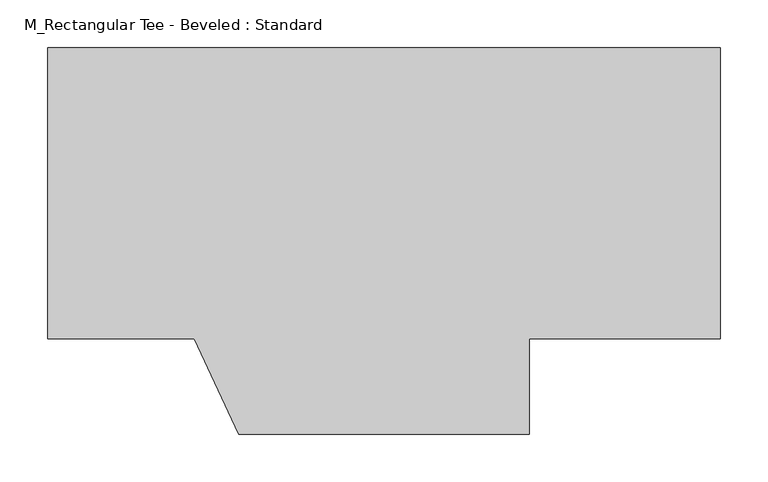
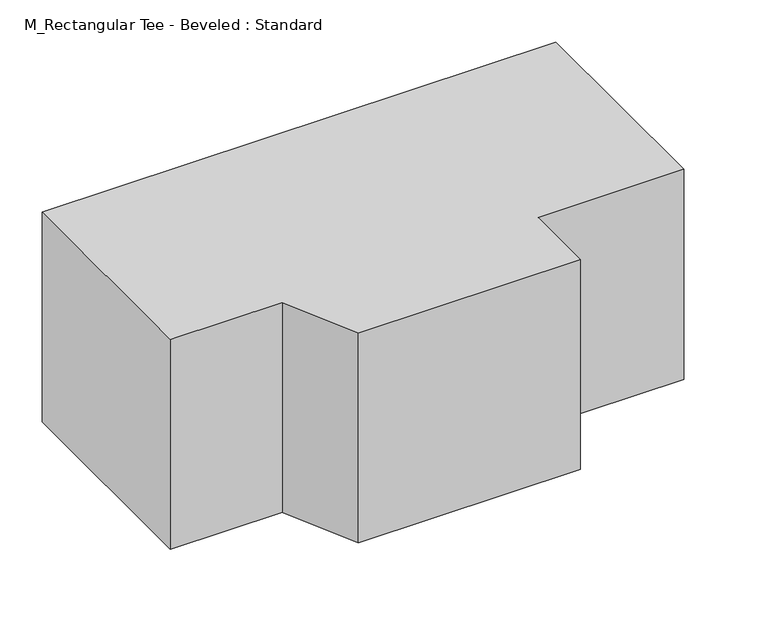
"""IFC4 building model written with IfcOpenShell, lengths in millimetres: duct fitting geometry, M_Rectangular Tee - Beveled : Standard."""

from ifc_helpers import new_model, si_unit, frame, origin, place, context, project, spatial, polyline, outline, extrude, source, transform, mapped, element, save


def m_rectangular_tee_beveled_standard_c2d9937a(model_context):
    return source(origin(), model_context, "Body", "SweptSolid", [
        extrude(outline(polyline([(-352.4, -152.4), (-352.4, 152.4), (352.4, 152.4), (352.4, -152.4), (152.4, -152.4), (152.4, -252.4), (-152.4, -252.4), (-199.0307658, -152.4), (-352.4, -152.4)])), frame((0.0, 0.0, -152.4), z_axis=(0.0, 0.0, 1.0), x_axis=(1.0, 0.0, 0.0)), (0.0, 0.0, 1.0), 304.8),
    ])


if __name__ == "__main__":
    model = new_model("IFC4")
    model_context = context("Model", 3, world=origin())
    ifc_project = project(units=[si_unit("LENGTHUNIT", "METRE", prefix="MILLI")], contexts=[model_context])
    site = spatial("IfcSite", under=ifc_project)
    building = spatial("IfcBuilding", under=site)
    placement = place(None, origin())
    m_rectangular_tee_beveled_standard_shape = m_rectangular_tee_beveled_standard_c2d9937a(model_context)
    element("IfcDuctFitting", 1, ObjectType="M_Rectangular Tee - Beveled : Standard", at=placement, inside=building, context=model_context, shape_type="MappedRepresentation", body=[
        mapped(m_rectangular_tee_beveled_standard_shape, transform((0.0, 0.0, 0.0), x_axis=(1.0, 0.0, 0.0), y_axis=(0.0, 1.0, 0.0), z_axis=(0.0, 0.0, 1.0))),
    ])
    save(model, "model.ifc")
